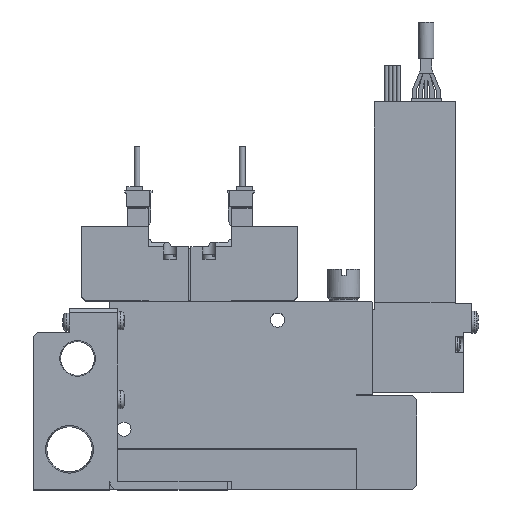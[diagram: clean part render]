
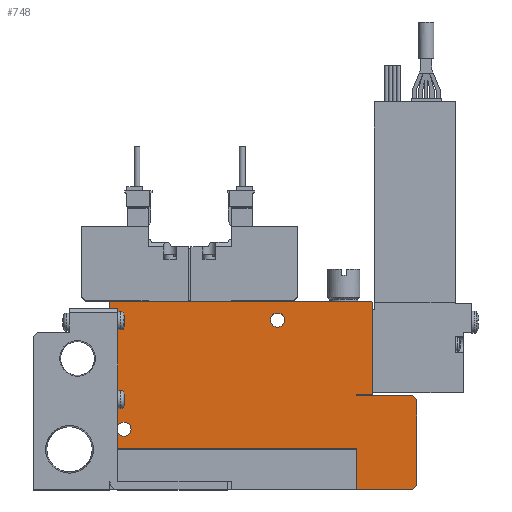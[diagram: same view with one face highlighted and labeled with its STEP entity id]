
A CAD part, top view. The second image highlights one B-rep face of the part: STEP entity #748.
In plain terms, the highlighted planar face has unit normal (0, 0, 1).
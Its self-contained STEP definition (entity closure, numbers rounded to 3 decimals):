
#748=ADVANCED_FACE('',(#1745,#1746,#1747),#1748,.F.);
#1745=FACE_OUTER_BOUND('',#3099,.T.);
#1746=FACE_BOUND('',#3100,.T.);
#1747=FACE_BOUND('',#3101,.T.);
#1748=PLANE('',#3102);
#3099=EDGE_LOOP('',(#6535,#6536,#6537,#6538,#6539,#6540,#6541,#6542,#6543,#6544,#6545,#6546,#6547,#6548));
#3100=EDGE_LOOP('',(#6549));
#3101=EDGE_LOOP('',(#6550));
#3102=AXIS2_PLACEMENT_3D('',#6551,#6552,#6553);
#6535=ORIENTED_EDGE('',*,*,#9179,.T.);
#6536=ORIENTED_EDGE('',*,*,#9185,.F.);
#6537=ORIENTED_EDGE('',*,*,#9186,.F.);
#6538=ORIENTED_EDGE('',*,*,#9187,.T.);
#6539=ORIENTED_EDGE('',*,*,#9188,.T.);
#6540=ORIENTED_EDGE('',*,*,#9189,.T.);
#6541=ORIENTED_EDGE('',*,*,#9190,.T.);
#6542=ORIENTED_EDGE('',*,*,#9183,.T.);
#6543=ORIENTED_EDGE('',*,*,#9191,.T.);
#6544=ORIENTED_EDGE('',*,*,#9192,.T.);
#6545=ORIENTED_EDGE('',*,*,#9193,.T.);
#6546=ORIENTED_EDGE('',*,*,#9194,.T.);
#6547=ORIENTED_EDGE('',*,*,#9195,.T.);
#6548=ORIENTED_EDGE('',*,*,#9196,.T.);
#6549=ORIENTED_EDGE('',*,*,#9166,.F.);
#6550=ORIENTED_EDGE('',*,*,#9168,.F.);
#6551=CARTESIAN_POINT('',(0.0,0.0,5.0));
#6552=DIRECTION('',(0.0,0.0,-1.0));
#6553=DIRECTION('',(0.0,-1.0,0.0));
#9166=EDGE_CURVE('',#11192,#11192,#11193,.T.);
#9168=EDGE_CURVE('',#11196,#11196,#11197,.T.);
#9179=EDGE_CURVE('',#11219,#11217,#11220,.T.);
#9183=EDGE_CURVE('',#11227,#11225,#11228,.T.);
#9185=EDGE_CURVE('',#11230,#11217,#11231,.T.);
#9186=EDGE_CURVE('',#11232,#11230,#11233,.T.);
#9187=EDGE_CURVE('',#11232,#11234,#11235,.T.);
#9188=EDGE_CURVE('',#11234,#11236,#11237,.T.);
#9189=EDGE_CURVE('',#11236,#11238,#11239,.T.);
#9190=EDGE_CURVE('',#11238,#11227,#11240,.T.);
#9191=EDGE_CURVE('',#11225,#11241,#11242,.T.);
#9192=EDGE_CURVE('',#11241,#11243,#11244,.T.);
#9193=EDGE_CURVE('',#11243,#11245,#11246,.T.);
#9194=EDGE_CURVE('',#11245,#11247,#11248,.T.);
#9195=EDGE_CURVE('',#11247,#11249,#11250,.T.);
#9196=EDGE_CURVE('',#11249,#11219,#11251,.T.);
#11192=VERTEX_POINT('',#14496);
#11193=CIRCLE('',#14497,1.75);
#11196=VERTEX_POINT('',#14500);
#11197=CIRCLE('',#14501,1.75);
#11217=VERTEX_POINT('',#14528);
#11219=VERTEX_POINT('',#14531);
#11220=LINE('',#14532,#14533);
#11225=VERTEX_POINT('',#14540);
#11227=VERTEX_POINT('',#14543);
#11228=LINE('',#14544,#14545);
#11230=VERTEX_POINT('',#14548);
#11231=LINE('',#14549,#14550);
#11232=VERTEX_POINT('',#14551);
#11233=LINE('',#14552,#14553);
#11234=VERTEX_POINT('',#14554);
#11235=LINE('',#14555,#14556);
#11236=VERTEX_POINT('',#14557);
#11237=LINE('',#14558,#14559);
#11238=VERTEX_POINT('',#14560);
#11239=LINE('',#14561,#14562);
#11240=LINE('',#14563,#14564);
#11241=VERTEX_POINT('',#14565);
#11242=LINE('',#14566,#14567);
#11243=VERTEX_POINT('',#14568);
#11244=LINE('',#14569,#14570);
#11245=VERTEX_POINT('',#14571);
#11246=LINE('',#14572,#14573);
#11247=VERTEX_POINT('',#14574);
#11248=LINE('',#14575,#14576);
#11249=VERTEX_POINT('',#14577);
#11250=LINE('',#14578,#14579);
#11251=LINE('',#14580,#14581);
#14496=CARTESIAN_POINT('',(5.25,15.0,5.0));
#14497=AXIS2_PLACEMENT_3D('',#17626,#17627,#17628);
#14500=CARTESIAN_POINT('',(43.25,42.0,5.0));
#14501=AXIS2_PLACEMENT_3D('',#17632,#17633,#17634);
#14528=CARTESIAN_POINT('',(0.0,10.1,5.0));
#14531=CARTESIAN_POINT('',(0.0,46.4,5.0));
#14532=CARTESIAN_POINT('',(0.0,46.4,5.0));
#14533=VECTOR('',#17649,1.0);
#14540=CARTESIAN_POINT('',(61.0,23.25,5.0));
#14543=CARTESIAN_POINT('',(75.0,23.25,5.0));
#14544=CARTESIAN_POINT('',(75.0,23.25,5.0));
#14545=VECTOR('',#17653,1.0);
#14548=CARTESIAN_POINT('',(61.1,10.1,5.0));
#14549=CARTESIAN_POINT('',(61.1,10.1,5.0));
#14550=VECTOR('',#17655,1.0);
#14551=CARTESIAN_POINT('',(61.1,0.0,5.0));
#14552=CARTESIAN_POINT('',(61.1,0.0,5.0));
#14553=VECTOR('',#17656,1.0);
#14554=CARTESIAN_POINT('',(75.0,0.0,5.0));
#14555=CARTESIAN_POINT('',(0.0,0.0,5.0));
#14556=VECTOR('',#17657,1.0);
#14557=CARTESIAN_POINT('',(76.0,1.0,5.0));
#14558=CARTESIAN_POINT('',(75.0,0.0,5.0));
#14559=VECTOR('',#17658,1.0);
#14560=CARTESIAN_POINT('',(76.0,22.25,5.0));
#14561=CARTESIAN_POINT('',(76.0,1.0,5.0));
#14562=VECTOR('',#17659,1.0);
#14563=CARTESIAN_POINT('',(76.0,22.25,5.0));
#14564=VECTOR('',#17660,1.0);
#14565=CARTESIAN_POINT('',(61.0,23.5,5.0));
#14566=CARTESIAN_POINT('',(61.0,23.25,5.0));
#14567=VECTOR('',#17661,1.0);
#14568=CARTESIAN_POINT('',(65.0,23.5,5.0));
#14569=CARTESIAN_POINT('',(61.0,23.5,5.0));
#14570=VECTOR('',#17662,1.0);
#14571=CARTESIAN_POINT('',(65.0,46.4,5.0));
#14572=CARTESIAN_POINT('',(65.0,23.5,5.0));
#14573=VECTOR('',#17663,1.0);
#14574=CARTESIAN_POINT('',(64.8,46.6,5.0));
#14575=CARTESIAN_POINT('',(65.0,46.4,5.0));
#14576=VECTOR('',#17664,1.0);
#14577=CARTESIAN_POINT('',(0.2,46.6,5.0));
#14578=CARTESIAN_POINT('',(64.8,46.6,5.0));
#14579=VECTOR('',#17665,1.0);
#14580=CARTESIAN_POINT('',(0.2,46.6,5.0));
#14581=VECTOR('',#17666,1.0);
#17626=CARTESIAN_POINT('',(3.5,15.0,5.0));
#17627=DIRECTION('',(0.0,0.0,1.0));
#17628=DIRECTION('',(1.0,0.0,0.0));
#17632=CARTESIAN_POINT('',(41.5,42.0,5.0));
#17633=DIRECTION('',(0.0,0.0,1.0));
#17634=DIRECTION('',(1.0,0.0,0.0));
#17649=DIRECTION('',(0.0,-1.0,0.0));
#17653=DIRECTION('',(-1.0,0.0,0.0));
#17655=DIRECTION('',(-1.0,0.0,0.0));
#17656=DIRECTION('',(0.0,1.0,0.0));
#17657=DIRECTION('',(1.0,0.0,0.0));
#17658=DIRECTION('',(0.707,0.707,0.0));
#17659=DIRECTION('',(0.0,1.0,0.0));
#17660=DIRECTION('',(-0.707,0.707,0.0));
#17661=DIRECTION('',(0.0,1.0,0.0));
#17662=DIRECTION('',(1.0,0.,0.0));
#17663=DIRECTION('',(0.0,1.0,0.0));
#17664=DIRECTION('',(-0.707,0.707,0.0));
#17665=DIRECTION('',(-1.0,0.0,0.0));
#17666=DIRECTION('',(-0.707,-0.707,0.0));
